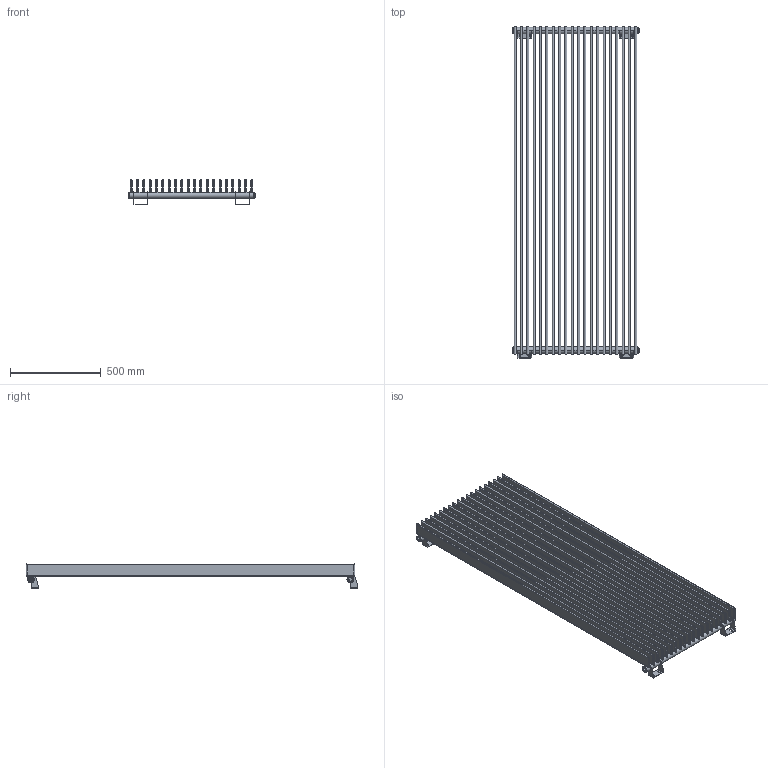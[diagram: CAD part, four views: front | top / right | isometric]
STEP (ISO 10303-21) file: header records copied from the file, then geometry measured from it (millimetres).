
FILE_DESCRIPTION (( 'STEP AP203' ), '1' );
FILE_NAME ('CD20S1810.STEP', '2026-03-06T11:29:27', ( '' ), ( '' ), 'SwSTEP 2.0', 'SolidWorks 2025', '' );
FILE_SCHEMA (( 'CONFIG_CONTROL_DESIGN' ));
Length unit declared in the file: millimetre
Products named in the file (6): tappo_sx.prt; CD20S1810; tappo_sfiato.prt; TRAVERSINO PIATTO 70 CONDOR-SHELF [Con configurazioni]_1810; COLLETTORE INT 35 [Con configurazioni]_690; STAFFA 2025 [Con configurazioni]_PICCHIO S - CONDOR S
Assembly tree (28 placements, depth 2):
  CD20S1810
    COLLETTORE INT 35 [Con configurazioni]_690  x2
    TRAVERSINO PIATTO 70 CONDOR-SHELF [Con configurazioni]_1810  x20
    STAFFA 2025 [Con configurazioni]_PICCHIO S - CONDOR S  x4
    tappo_sfiato.prt
    tappo_sx.prt
Bounding box: 696 x 1828 x 137.5 mm (x, y, z)
Volume: 8311504.3 mm3; surface area: 11076691.8 mm2
Topology: 26 solids, 30 shells, 937 faces, 2468 edges, 1557 vertices
Faces by surface type: cylinder 540, plane 322, bspline 49, torus 24, cone 2
Entity records: 21393 total; most frequent: CARTESIAN_POINT 13944, ORIENTED_EDGE 1556, DIRECTION 880, EDGE_CURVE 782, B_SPLINE_CURVE_WITH_KNOTS 507, VERTEX_POINT 477, AXIS2_PLACEMENT_3D 344, EDGE_LOOP 302
